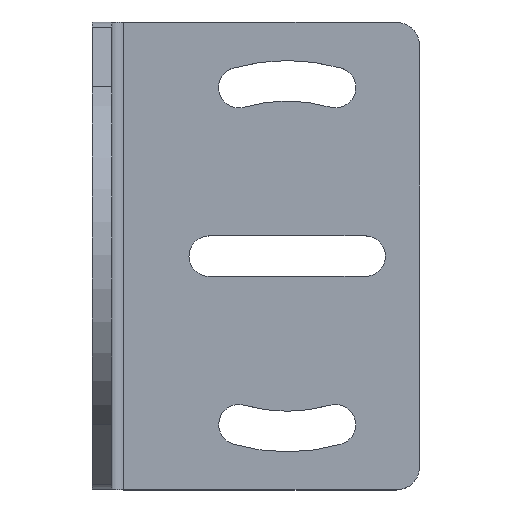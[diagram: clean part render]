
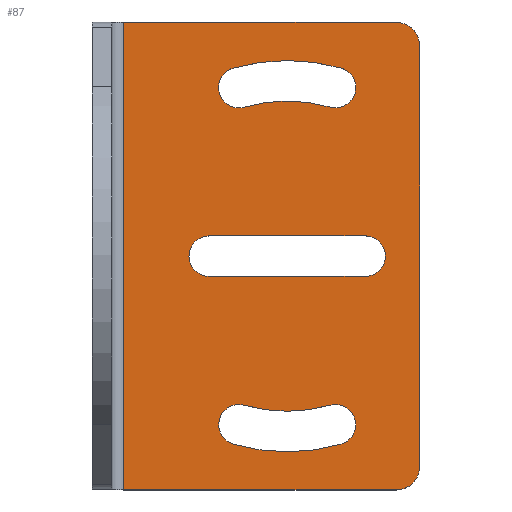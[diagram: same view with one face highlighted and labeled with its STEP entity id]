
A CAD part, top view. The second image highlights one B-rep face of the part: STEP entity #87.
In plain terms, the highlighted planar face has unit normal (0, 0, 1).
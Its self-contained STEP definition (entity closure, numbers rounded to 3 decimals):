
#87 = ADVANCED_FACE( '', ( #183, #184, #185, #186 ), #187, .F. );
#183 = FACE_BOUND( '', #286, .T. );
#184 = FACE_BOUND( '', #287, .T. );
#185 = FACE_BOUND( '', #288, .T. );
#186 = FACE_OUTER_BOUND( '', #289, .T. );
#187 = PLANE( '', #290 );
#286 = EDGE_LOOP( '', ( #487, #488, #489, #490 ) );
#287 = EDGE_LOOP( '', ( #491, #492, #493, #494 ) );
#288 = EDGE_LOOP( '', ( #495, #496, #497, #498 ) );
#289 = EDGE_LOOP( '', ( #499, #500, #501, #502, #503, #504 ) );
#290 = AXIS2_PLACEMENT_3D( '', #505, #506, #507 );
#487 = ORIENTED_EDGE( '', *, *, #688, .F. );
#488 = ORIENTED_EDGE( '', *, *, #660, .F. );
#489 = ORIENTED_EDGE( '', *, *, #689, .F. );
#490 = ORIENTED_EDGE( '', *, *, #668, .F. );
#491 = ORIENTED_EDGE( '', *, *, #614, .F. );
#492 = ORIENTED_EDGE( '', *, *, #690, .F. );
#493 = ORIENTED_EDGE( '', *, *, #637, .F. );
#494 = ORIENTED_EDGE( '', *, *, #648, .F. );
#495 = ORIENTED_EDGE( '', *, *, #685, .F. );
#496 = ORIENTED_EDGE( '', *, *, #619, .F. );
#497 = ORIENTED_EDGE( '', *, *, #642, .F. );
#498 = ORIENTED_EDGE( '', *, *, #691, .F. );
#499 = ORIENTED_EDGE( '', *, *, #692, .T. );
#500 = ORIENTED_EDGE( '', *, *, #656, .T. );
#501 = ORIENTED_EDGE( '', *, *, #693, .T. );
#502 = ORIENTED_EDGE( '', *, *, #672, .T. );
#503 = ORIENTED_EDGE( '', *, *, #610, .F. );
#504 = ORIENTED_EDGE( '', *, *, #694, .T. );
#505 = CARTESIAN_POINT( '', ( 42., -30., 2.5 ) );
#506 = DIRECTION( '', ( 0., 0., -1. ) );
#507 = DIRECTION( '', ( -1., 0., 0. ) );
#610 = EDGE_CURVE( '', #724, #726, #727, .T. );
#614 = EDGE_CURVE( '', #731, #733, #734, .T. );
#619 = EDGE_CURVE( '', #740, #742, #743, .T. );
#637 = EDGE_CURVE( '', #771, #773, #774, .T. );
#642 = EDGE_CURVE( '', #780, #740, #782, .T. );
#648 = EDGE_CURVE( '', #733, #771, #789, .T. );
#656 = EDGE_CURVE( '', #801, #799, #802, .F. );
#660 = EDGE_CURVE( '', #806, #808, #809, .T. );
#668 = EDGE_CURVE( '', #819, #821, #822, .T. );
#672 = EDGE_CURVE( '', #827, #726, #828, .F. );
#685 = EDGE_CURVE( '', #742, #844, #845, .T. );
#688 = EDGE_CURVE( '', #808, #819, #848, .T. );
#689 = EDGE_CURVE( '', #821, #806, #849, .T. );
#690 = EDGE_CURVE( '', #773, #731, #850, .T. );
#691 = EDGE_CURVE( '', #844, #780, #851, .T. );
#692 = EDGE_CURVE( '', #852, #801, #853, .T. );
#693 = EDGE_CURVE( '', #799, #827, #854, .T. );
#694 = EDGE_CURVE( '', #724, #852, #855, .F. );
#724 = VERTEX_POINT( '', #891 );
#726 = VERTEX_POINT( '', #894 );
#727 = LINE( '', #895, #896 );
#731 = VERTEX_POINT( '', #900 );
#733 = VERTEX_POINT( '', #903 );
#734 = CIRCLE( '', #904, 25.1 );
#740 = VERTEX_POINT( '', #911 );
#742 = VERTEX_POINT( '', #914 );
#743 = CIRCLE( '', #915, 2.6 );
#771 = VERTEX_POINT( '', #951 );
#773 = VERTEX_POINT( '', #954 );
#774 = CIRCLE( '', #955, 19.9 );
#780 = VERTEX_POINT( '', #962 );
#782 = CIRCLE( '', #965, 19.9 );
#789 = CIRCLE( '', #973, 2.6 );
#799 = VERTEX_POINT( '', #984 );
#801 = VERTEX_POINT( '', #987 );
#802 = CIRCLE( '', #988, 3. );
#806 = VERTEX_POINT( '', #993 );
#808 = VERTEX_POINT( '', #996 );
#809 = CIRCLE( '', #997, 2.6 );
#819 = VERTEX_POINT( '', #1010 );
#821 = VERTEX_POINT( '', #1013 );
#822 = CIRCLE( '', #1014, 2.6 );
#827 = VERTEX_POINT( '', #1020 );
#828 = LINE( '', #1021, #1022 );
#844 = VERTEX_POINT( '', #1043 );
#845 = CIRCLE( '', #1044, 25.1 );
#848 = LINE( '', #1048, #1049 );
#849 = LINE( '', #1050, #1051 );
#850 = CIRCLE( '', #1052, 2.6 );
#851 = CIRCLE( '', #1053, 2.6 );
#852 = VERTEX_POINT( '', #1054 );
#853 = LINE( '', #1055, #1056 );
#854 = LINE( '', #1057, #1058 );
#855 = CIRCLE( '', #1059, 3. );
#891 = CARTESIAN_POINT( '', ( 39., -30., 2.5 ) );
#894 = CARTESIAN_POINT( '', ( 4., -30., 2.5 ) );
#895 = CARTESIAN_POINT( '', ( 42., -30., 2.5 ) );
#896 = VECTOR( '', #1090, 1000. );
#900 = CARTESIAN_POINT( '', ( 18.1, -24.133, 2.5 ) );
#903 = CARTESIAN_POINT( '', ( 31.9, -24.133, 2.5 ) );
#904 = AXIS2_PLACEMENT_3D( '', #1095, #1096, #1097 );
#911 = CARTESIAN_POINT( '', ( 30.5, 19.125, 2.5 ) );
#914 = CARTESIAN_POINT( '', ( 31.937, 24.122, 2.5 ) );
#915 = AXIS2_PLACEMENT_3D( '', #1103, #1104, #1105 );
#951 = CARTESIAN_POINT( '', ( 30.471, -19.133, 2.5 ) );
#954 = CARTESIAN_POINT( '', ( 19.529, -19.133, 2.5 ) );
#955 = AXIS2_PLACEMENT_3D( '', #1130, #1131, #1132 );
#962 = CARTESIAN_POINT( '', ( 19.5, 19.125, 2.5 ) );
#965 = AXIS2_PLACEMENT_3D( '', #1138, #1139, #1140 );
#973 = AXIS2_PLACEMENT_3D( '', #1148, #1149, #1150 );
#984 = CARTESIAN_POINT( '', ( 39., 30., 2.5 ) );
#987 = CARTESIAN_POINT( '', ( 42., 27., 2.5 ) );
#988 = AXIS2_PLACEMENT_3D( '', #1162, #1163, #1164 );
#993 = CARTESIAN_POINT( '', ( 35., -2.6, 2.5 ) );
#996 = CARTESIAN_POINT( '', ( 35., 2.6, 2.5 ) );
#997 = AXIS2_PLACEMENT_3D( '', #1167, #1168, #1169 );
#1010 = CARTESIAN_POINT( '', ( 15., 2.6, 2.5 ) );
#1013 = CARTESIAN_POINT( '', ( 15., -2.6, 2.5 ) );
#1014 = AXIS2_PLACEMENT_3D( '', #1177, #1178, #1179 );
#1020 = CARTESIAN_POINT( '', ( 4., 30., 2.5 ) );
#1021 = CARTESIAN_POINT( '', ( 4., -30., 2.5 ) );
#1022 = VECTOR( '', #1184, 1000. );
#1043 = CARTESIAN_POINT( '', ( 18.063, 24.122, 2.5 ) );
#1044 = AXIS2_PLACEMENT_3D( '', #1205, #1206, #1207 );
#1048 = CARTESIAN_POINT( '', ( 15., 2.6, 2.5 ) );
#1049 = VECTOR( '', #1209, 1000. );
#1050 = CARTESIAN_POINT( '', ( 15., -2.6, 2.5 ) );
#1051 = VECTOR( '', #1210, 1000. );
#1052 = AXIS2_PLACEMENT_3D( '', #1211, #1212, #1213 );
#1053 = AXIS2_PLACEMENT_3D( '', #1214, #1215, #1216 );
#1054 = CARTESIAN_POINT( '', ( 42., -27., 2.5 ) );
#1055 = CARTESIAN_POINT( '', ( 42., -30., 2.5 ) );
#1056 = VECTOR( '', #1217, 1000. );
#1057 = CARTESIAN_POINT( '', ( 42., 30., 2.5 ) );
#1058 = VECTOR( '', #1218, 1000. );
#1059 = AXIS2_PLACEMENT_3D( '', #1219, #1220, #1221 );
#1090 = DIRECTION( '', ( -1., 0., 0. ) );
#1095 = CARTESIAN_POINT( '', ( 25., 0., 2.5 ) );
#1096 = DIRECTION( '', ( 0., 0., 1. ) );
#1097 = DIRECTION( '', ( 1., 0., 0. ) );
#1103 = CARTESIAN_POINT( '', ( 31.218, 21.624, 2.5 ) );
#1104 = DIRECTION( '', ( 0., 0., 1. ) );
#1105 = DIRECTION( '', ( -1., 0., 0. ) );
#1130 = CARTESIAN_POINT( '', ( 25., 0., 2.5 ) );
#1131 = DIRECTION( '', ( 0., 0., -1. ) );
#1132 = DIRECTION( '', ( 1., 0., 0. ) );
#1138 = CARTESIAN_POINT( '', ( 25., 0., 2.5 ) );
#1139 = DIRECTION( '', ( 0., 0., -1. ) );
#1140 = DIRECTION( '', ( 1., 0., 0. ) );
#1148 = CARTESIAN_POINT( '', ( 31.186, -21.633, 2.5 ) );
#1149 = DIRECTION( '', ( 0., 0., 1. ) );
#1150 = DIRECTION( '', ( -1., 0., 0. ) );
#1162 = CARTESIAN_POINT( '', ( 39., 27., 2.5 ) );
#1163 = DIRECTION( '', ( 0., 0., -1. ) );
#1164 = DIRECTION( '', ( -1., 0., 0. ) );
#1167 = CARTESIAN_POINT( '', ( 35., 0., 2.5 ) );
#1168 = DIRECTION( '', ( 0., 0., 1. ) );
#1169 = DIRECTION( '', ( -1., 0., 0. ) );
#1177 = CARTESIAN_POINT( '', ( 15., 0., 2.5 ) );
#1178 = DIRECTION( '', ( 0., 0., 1. ) );
#1179 = DIRECTION( '', ( 1., 0., 0. ) );
#1184 = DIRECTION( '', ( 0., 1., 0. ) );
#1205 = CARTESIAN_POINT( '', ( 25., 0., 2.5 ) );
#1206 = DIRECTION( '', ( 0., 0., 1. ) );
#1207 = DIRECTION( '', ( 1., 0., 0. ) );
#1209 = DIRECTION( '', ( -1., 0., 0. ) );
#1210 = DIRECTION( '', ( 1., 0., 0. ) );
#1211 = CARTESIAN_POINT( '', ( 18.814, -21.633, 2.5 ) );
#1212 = DIRECTION( '', ( 0., 0., 1. ) );
#1213 = DIRECTION( '', ( 1., 0., 0. ) );
#1214 = CARTESIAN_POINT( '', ( 18.782, 21.624, 2.5 ) );
#1215 = DIRECTION( '', ( 0., 0., 1. ) );
#1216 = DIRECTION( '', ( 1., 0., 0. ) );
#1217 = DIRECTION( '', ( 0., 1., 0. ) );
#1218 = DIRECTION( '', ( -1., 0., 0. ) );
#1219 = CARTESIAN_POINT( '', ( 39., -27., 2.5 ) );
#1220 = DIRECTION( '', ( 0., 0., -1. ) );
#1221 = DIRECTION( '', ( -1., 0., 0. ) );
